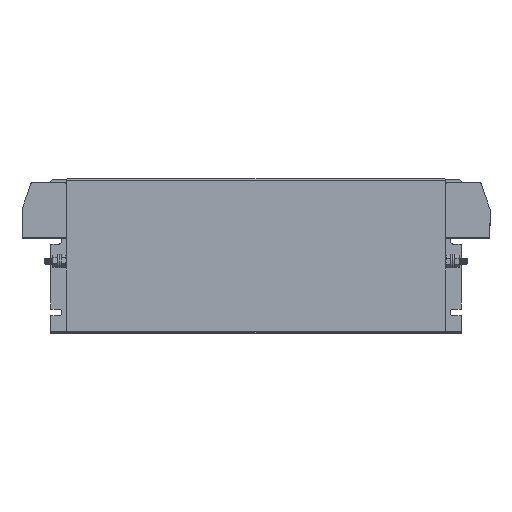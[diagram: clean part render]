
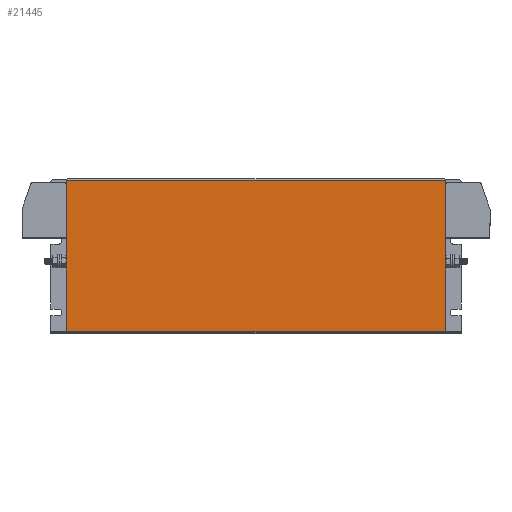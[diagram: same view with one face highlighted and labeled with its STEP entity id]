
A CAD part, top view. The second image highlights one B-rep face of the part: STEP entity #21445.
In plain terms, the highlighted planar face has unit normal (0, 0, 1).
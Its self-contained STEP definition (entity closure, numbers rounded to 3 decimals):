
#317 = VECTOR ( 'NONE', #8301, 1000. ) ;
#1520 = ORIENTED_EDGE ( 'NONE', *, *, #13452, .T. ) ;
#4525 = CARTESIAN_POINT ( 'NONE',  ( 385., 150., 1.5 ) ) ;
#4727 = VECTOR ( 'NONE', #15402, 1000. ) ;
#5506 = EDGE_CURVE ( 'NONE', #17259, #33037, #25703, .T. ) ;
#8301 = DIRECTION ( 'NONE',  ( -1., 0., 0. ) ) ;
#9022 = VERTEX_POINT ( 'NONE', #16957 ) ;
#9341 = VECTOR ( 'NONE', #17410, 1000. ) ;
#9366 = FACE_OUTER_BOUND ( 'NONE', #18045, .T. ) ;
#9905 = CARTESIAN_POINT ( 'NONE',  ( 15., 1.5, 1.5 ) ) ;
#10742 = ORIENTED_EDGE ( 'NONE', *, *, #25001, .T. ) ;
#11083 = AXIS2_PLACEMENT_3D ( 'NONE', #24727, #11672, #29964 ) ;
#11672 = DIRECTION ( 'NONE',  ( 0., 0., -1. ) ) ;
#12363 = LINE ( 'NONE', #23485, #23827 ) ;
#13452 = EDGE_CURVE ( 'NONE', #9022, #21919, #12363, .T. ) ;
#15402 = DIRECTION ( 'NONE',  ( 1., 0., 0. ) ) ;
#16701 = DIRECTION ( 'NONE',  ( 0., -1., 0. ) ) ;
#16957 = CARTESIAN_POINT ( 'NONE',  ( 15., 148.5, 1.5 ) ) ;
#17259 = VERTEX_POINT ( 'NONE', #22858 ) ;
#17410 = DIRECTION ( 'NONE',  ( 0., -1., 0. ) ) ;
#17740 = ORIENTED_EDGE ( 'NONE', *, *, #5506, .F. ) ;
#18045 = EDGE_LOOP ( 'NONE', ( #17740, #19694, #1520, #10742 ) ) ;
#18140 = EDGE_CURVE ( 'NONE', #17259, #9022, #32947, .T. ) ;
#18773 = CARTESIAN_POINT ( 'NONE',  ( 15., 148.5, 1.5 ) ) ;
#19430 = PLANE ( 'NONE',  #11083 ) ;
#19694 = ORIENTED_EDGE ( 'NONE', *, *, #18140, .T. ) ;
#19760 = LINE ( 'NONE', #9905, #4727 ) ;
#21445 = ADVANCED_FACE ( 'NONE', ( #9366 ), #19430, .F. ) ;
#21919 = VERTEX_POINT ( 'NONE', #22031 ) ;
#22031 = CARTESIAN_POINT ( 'NONE',  ( 15., 1.5, 1.5 ) ) ;
#22858 = CARTESIAN_POINT ( 'NONE',  ( 385., 148.5, 1.5 ) ) ;
#23485 = CARTESIAN_POINT ( 'NONE',  ( 15., 150., 1.5 ) ) ;
#23827 = VECTOR ( 'NONE', #16701, 1000. ) ;
#24727 = CARTESIAN_POINT ( 'NONE',  ( 15., 150., 1.5 ) ) ;
#25001 = EDGE_CURVE ( 'NONE', #21919, #33037, #19760, .T. ) ;
#25703 = LINE ( 'NONE', #4525, #9341 ) ;
#29964 = DIRECTION ( 'NONE',  ( -1., 0., 0. ) ) ;
#30782 = CARTESIAN_POINT ( 'NONE',  ( 385., 1.5, 1.5 ) ) ;
#32947 = LINE ( 'NONE', #18773, #317 ) ;
#33037 = VERTEX_POINT ( 'NONE', #30782 ) ;
